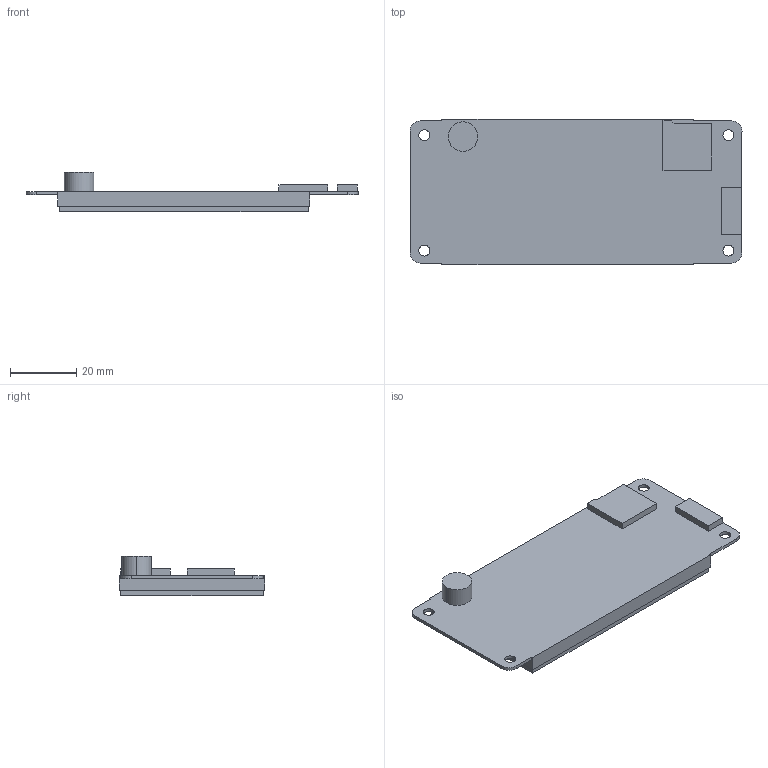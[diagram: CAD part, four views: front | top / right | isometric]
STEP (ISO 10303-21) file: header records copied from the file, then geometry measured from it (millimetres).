
FILE_DESCRIPTION((''),'2;1');
FILE_NAME('DMG64360T030-01WN-WTR','2021-10-27T',('Administrator'),(''),'PRO/ENGINEER BY PARAMETRIC TECHNOLOGY CORPORATION, 2008380','PRO/ENGINEER BY PARAMETRIC TECHNOLOGY CORPORATION, 2008380','');
FILE_SCHEMA(('CONFIG_CONTROL_DESIGN'));
Length unit declared in the file: millimetre
Products named in the file (1): DMG64360T030-01WN-WTR
Bounding box: 100 x 43.8 x 11.9 mm (x, y, z)
Volume: 21061.5 mm3; surface area: 15610.7 mm2
Topology: 1 solids, 2 shells, 52 faces, 8350 edges, 13928 vertices
Faces by surface type: plane 38, cylinder 14
Entity records: 45339 total; most frequent: DIRECTION 11098, CARTESIAN_POINT 8491, TRIMMED_CURVE 8218, VECTOR 5708, LINE 5708, AXIS2_PLACEMENT_3D 2695, CIRCLE 2642, ORIENTED_EDGE 264
